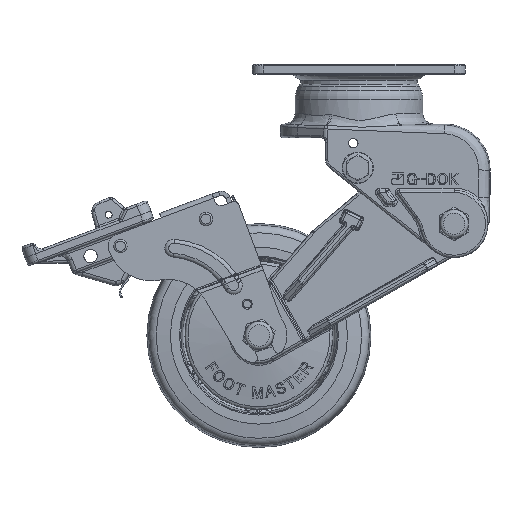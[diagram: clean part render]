
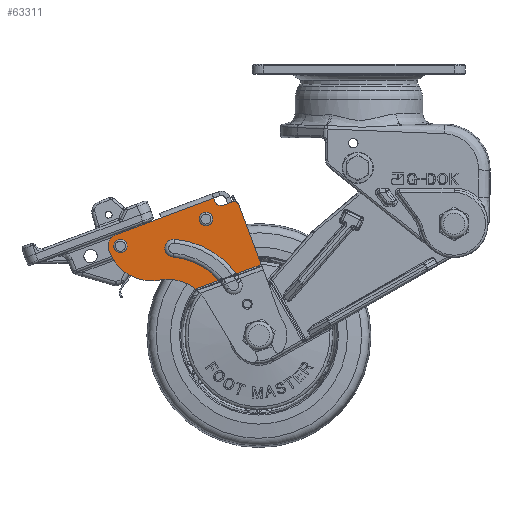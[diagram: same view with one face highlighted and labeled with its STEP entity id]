
A CAD part, front view. The second image highlights one B-rep face of the part: STEP entity #63311.
In plain terms, the highlighted planar face has unit normal (0, -1, 0).
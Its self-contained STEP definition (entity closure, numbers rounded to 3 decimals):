
#5459=FACE_BOUND('',#10342,.T.);
#5460=FACE_BOUND('',#10343,.T.);
#6496=FACE_OUTER_BOUND('',#10341,.T.);
#10341=EDGE_LOOP('',(#43175,#43176,#43177,#43178,#43179,#43180,#43181,#43182,
#43183,#43184,#43185,#43186,#43187,#43188,#43189,#43190,#43191));
#10342=EDGE_LOOP('',(#43192));
#10343=EDGE_LOOP('',(#43193));
#13871=CIRCLE('',#67588,2.25);
#13882=CIRCLE('',#67603,38.);
#13883=CIRCLE('',#67604,38.);
#13884=CIRCLE('',#67605,2.);
#13885=CIRCLE('',#67606,3.);
#13886=CIRCLE('',#67607,5.5);
#13887=CIRCLE('',#67608,20.);
#13888=CIRCLE('',#67609,20.);
#13889=CIRCLE('',#67610,30.);
#13890=CIRCLE('',#67611,4.);
#13891=CIRCLE('',#67612,2.25);
#17365=LINE('',#99758,#21070);
#17366=LINE('',#99760,#21071);
#17367=LINE('',#99764,#21072);
#17368=LINE('',#99768,#21073);
#17369=LINE('',#99770,#21074);
#17370=LINE('',#99772,#21075);
#17371=LINE('',#99776,#21076);
#17372=LINE('',#99782,#21077);
#21070=VECTOR('',#76342,10.);
#21071=VECTOR('',#76343,8.587);
#21072=VECTOR('',#76346,4.474);
#21073=VECTOR('',#76349,3.5);
#21074=VECTOR('',#76350,10.);
#21075=VECTOR('',#76351,21.526);
#21076=VECTOR('',#76354,10.);
#21077=VECTOR('',#76359,10.);
#25029=VERTEX_POINT('',#99709);
#25048=VERTEX_POINT('',#99752);
#25049=VERTEX_POINT('',#99753);
#25050=VERTEX_POINT('',#99755);
#25051=VERTEX_POINT('',#99757);
#25052=VERTEX_POINT('',#99759);
#25053=VERTEX_POINT('',#99761);
#25054=VERTEX_POINT('',#99763);
#25055=VERTEX_POINT('',#99765);
#25056=VERTEX_POINT('',#99767);
#25057=VERTEX_POINT('',#99769);
#25058=VERTEX_POINT('',#99771);
#25059=VERTEX_POINT('',#99773);
#25060=VERTEX_POINT('',#99775);
#25061=VERTEX_POINT('',#99777);
#25062=VERTEX_POINT('',#99779);
#25063=VERTEX_POINT('',#99781);
#25064=VERTEX_POINT('',#99783);
#25065=VERTEX_POINT('',#99786);
#31613=EDGE_CURVE('',#25029,#25029,#13871,.T.);
#31632=EDGE_CURVE('',#25048,#25049,#13882,.T.);
#31633=EDGE_CURVE('',#25049,#25050,#13883,.T.);
#31634=EDGE_CURVE('',#25050,#25051,#17365,.T.);
#31635=EDGE_CURVE('',#25052,#25051,#17366,.T.);
#31636=EDGE_CURVE('',#25053,#25052,#13884,.T.);
#31637=EDGE_CURVE('',#25054,#25053,#17367,.T.);
#31638=EDGE_CURVE('',#25055,#25054,#13885,.T.);
#31639=EDGE_CURVE('',#25056,#25055,#17368,.T.);
#31640=EDGE_CURVE('',#25057,#25056,#17369,.T.);
#31641=EDGE_CURVE('',#25058,#25057,#17370,.T.);
#31642=EDGE_CURVE('',#25059,#25058,#13886,.T.);
#31643=EDGE_CURVE('',#25060,#25059,#17371,.T.);
#31644=EDGE_CURVE('',#25061,#25060,#13887,.T.);
#31645=EDGE_CURVE('',#25061,#25062,#13888,.T.);
#31646=EDGE_CURVE('',#25062,#25063,#17372,.T.);
#31647=EDGE_CURVE('',#25063,#25064,#13889,.T.);
#31648=EDGE_CURVE('',#25064,#25048,#13890,.T.);
#31649=EDGE_CURVE('',#25065,#25065,#13891,.T.);
#43175=ORIENTED_EDGE('',*,*,#31632,.T.);
#43176=ORIENTED_EDGE('',*,*,#31633,.T.);
#43177=ORIENTED_EDGE('',*,*,#31634,.T.);
#43178=ORIENTED_EDGE('',*,*,#31635,.F.);
#43179=ORIENTED_EDGE('',*,*,#31636,.F.);
#43180=ORIENTED_EDGE('',*,*,#31637,.F.);
#43181=ORIENTED_EDGE('',*,*,#31638,.F.);
#43182=ORIENTED_EDGE('',*,*,#31639,.F.);
#43183=ORIENTED_EDGE('',*,*,#31640,.F.);
#43184=ORIENTED_EDGE('',*,*,#31641,.F.);
#43185=ORIENTED_EDGE('',*,*,#31642,.F.);
#43186=ORIENTED_EDGE('',*,*,#31643,.F.);
#43187=ORIENTED_EDGE('',*,*,#31644,.F.);
#43188=ORIENTED_EDGE('',*,*,#31645,.T.);
#43189=ORIENTED_EDGE('',*,*,#31646,.T.);
#43190=ORIENTED_EDGE('',*,*,#31647,.T.);
#43191=ORIENTED_EDGE('',*,*,#31648,.T.);
#43192=ORIENTED_EDGE('',*,*,#31649,.F.);
#43193=ORIENTED_EDGE('',*,*,#31613,.F.);
#57773=PLANE('',#67602);
#63311=ADVANCED_FACE('',(#6496,#5459,#5460),#57773,.F.);
#67588=AXIS2_PLACEMENT_3D('',#99711,#76300,#76301);
#67602=AXIS2_PLACEMENT_3D('',#99751,#76336,#76337);
#67603=AXIS2_PLACEMENT_3D('',#99754,#76338,#76339);
#67604=AXIS2_PLACEMENT_3D('',#99756,#76340,#76341);
#67605=AXIS2_PLACEMENT_3D('',#99762,#76344,#76345);
#67606=AXIS2_PLACEMENT_3D('',#99766,#76347,#76348);
#67607=AXIS2_PLACEMENT_3D('',#99774,#76352,#76353);
#67608=AXIS2_PLACEMENT_3D('',#99778,#76355,#76356);
#67609=AXIS2_PLACEMENT_3D('',#99780,#76357,#76358);
#67610=AXIS2_PLACEMENT_3D('',#99784,#76360,#76361);
#67611=AXIS2_PLACEMENT_3D('',#99785,#76362,#76363);
#67612=AXIS2_PLACEMENT_3D('',#99787,#76364,#76365);
#76300=DIRECTION('center_axis',(0.,-1.,0.));
#76301=DIRECTION('ref_axis',(0.,0.,-1.));
#76336=DIRECTION('center_axis',(0.,1.,0.));
#76337=DIRECTION('ref_axis',(-0.937,0.,-0.349));
#76338=DIRECTION('center_axis',(0.,1.,0.));
#76339=DIRECTION('ref_axis',(0.862,0.,0.507));
#76340=DIRECTION('center_axis',(0.,1.,0.));
#76341=DIRECTION('ref_axis',(0.862,0.,0.507));
#76342=DIRECTION('',(0.937,0.,0.349));
#76343=DIRECTION('',(0.349,0.,-0.937));
#76344=DIRECTION('center_axis',(0.,1.,0.));
#76345=DIRECTION('ref_axis',(0.937,0.,0.349));
#76346=DIRECTION('',(0.937,0.,0.349));
#76347=DIRECTION('center_axis',(0.,-1.,0.));
#76348=DIRECTION('ref_axis',(0.937,0.,0.349));
#76349=DIRECTION('',(0.349,0.,-0.937));
#76350=DIRECTION('',(0.937,0.,0.349));
#76351=DIRECTION('',(0.937,0.,0.349));
#76352=DIRECTION('center_axis',(0.,1.,0.));
#76353=DIRECTION('ref_axis',(0.937,0.,0.349));
#76354=DIRECTION('',(-0.349,0.,0.937));
#76355=DIRECTION('center_axis',(0.,1.,0.));
#76356=DIRECTION('ref_axis',(0.937,0.,0.349));
#76357=DIRECTION('center_axis',(0.,1.,0.));
#76358=DIRECTION('ref_axis',(0.862,0.,0.507));
#76359=DIRECTION('',(0.937,0.,0.349));
#76360=DIRECTION('center_axis',(0.,-1.,0.));
#76361=DIRECTION('ref_axis',(-0.862,0.,-0.507));
#76362=DIRECTION('center_axis',(0.,1.,0.));
#76363=DIRECTION('ref_axis',(0.079,0.,0.997));
#76364=DIRECTION('center_axis',(0.,-1.,0.));
#76365=DIRECTION('ref_axis',(0.,0.,-1.));
#99709=CARTESIAN_POINT('',(-105.665,-26.,-83.205));
#99711=CARTESIAN_POINT('Origin',(-106.451,-26.,-81.097));
#99751=CARTESIAN_POINT('Origin',(-84.12,-26.,-39.405));
#99752=CARTESIAN_POINT('',(-82.295,-26.,-78.022));
#99753=CARTESIAN_POINT('',(-54.954,-26.,-93.039));
#99754=CARTESIAN_POINT('Origin',(-85.306,-26.,-115.902));
#99755=CARTESIAN_POINT('',(-54.648,-26.,-93.451));
#99756=CARTESIAN_POINT('Origin',(-85.306,-26.,-115.902));
#99757=CARTESIAN_POINT('',(-43.611,-26.,-89.334));
#99758=CARTESIAN_POINT('',(-43.611,-26.,-89.334));
#99759=CARTESIAN_POINT('',(-53.633,-26.,-62.464));
#99760=CARTESIAN_POINT('',(-53.633,-26.,-62.464));
#99761=CARTESIAN_POINT('',(-56.206,-26.,-61.289));
#99762=CARTESIAN_POINT('Origin',(-55.507,-26.,-63.163));
#99763=CARTESIAN_POINT('',(-60.397,-26.,-62.852));
#99764=CARTESIAN_POINT('',(-60.397,-26.,-62.852));
#99765=CARTESIAN_POINT('',(-64.257,-26.,-61.09));
#99766=CARTESIAN_POINT('Origin',(-61.446,-26.,-60.041));
#99767=CARTESIAN_POINT('',(-64.781,-26.,-59.684));
#99768=CARTESIAN_POINT('',(-65.48,-26.,-57.81));
#99769=CARTESIAN_POINT('',(-88.204,-26.,-68.421));
#99770=CARTESIAN_POINT('',(-85.648,-26.,-67.467));
#99771=CARTESIAN_POINT('',(-108.373,-26.,-75.944));
#99772=CARTESIAN_POINT('',(-108.373,-26.,-75.944));
#99773=CARTESIAN_POINT('',(-111.605,-26.,-83.019));
#99774=CARTESIAN_POINT('Origin',(-106.451,-26.,-81.097));
#99775=CARTESIAN_POINT('',(-111.398,-26.,-83.573));
#99776=CARTESIAN_POINT('',(-108.11,-26.,-92.389));
#99777=CARTESIAN_POINT('',(-88.983,-26.,-96.243));
#99778=CARTESIAN_POINT('Origin',(-92.659,-26.,-76.584));
#99779=CARTESIAN_POINT('',(-72.863,-26.,-100.245));
#99780=CARTESIAN_POINT('Origin',(-85.306,-26.,-115.902));
#99781=CARTESIAN_POINT('',(-62.521,-26.,-96.387));
#99782=CARTESIAN_POINT('',(-43.611,-26.,-89.334));
#99783=CARTESIAN_POINT('',(-82.929,-26.,-85.996));
#99784=CARTESIAN_POINT('Origin',(-85.306,-26.,-115.902));
#99785=CARTESIAN_POINT('Origin',(-82.612,-26.,-82.009));
#99786=CARTESIAN_POINT('',(-67.484,-26.,-71.113));
#99787=CARTESIAN_POINT('Origin',(-68.27,-26.,-69.004));
